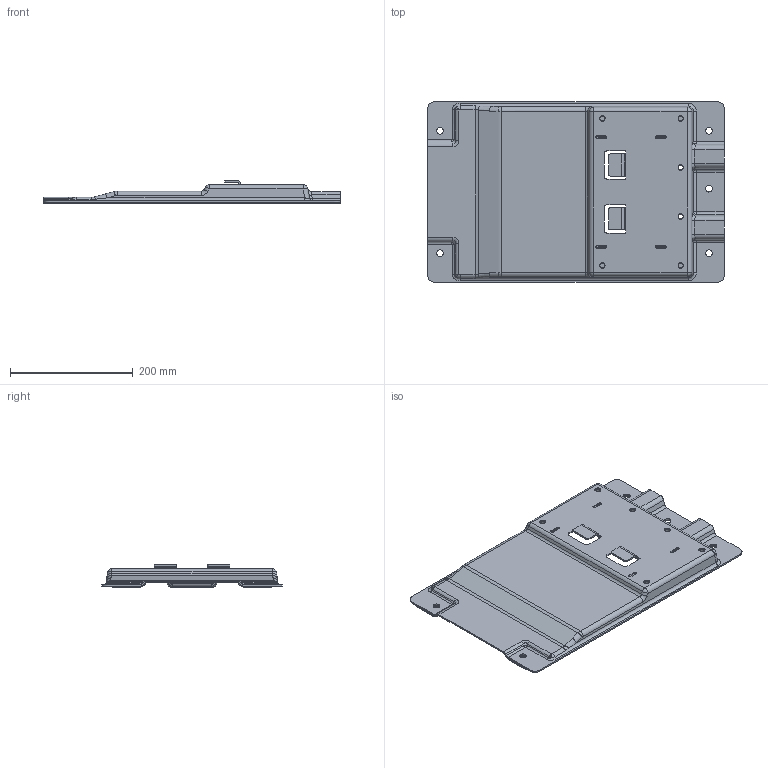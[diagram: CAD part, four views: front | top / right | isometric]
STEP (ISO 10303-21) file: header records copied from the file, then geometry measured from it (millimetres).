
FILE_DESCRIPTION(('CATIA V5 STEP Exchange'),'2;1');
FILE_NAME('F:\福田A6\17-新能源车\数据\变更后数据\副驾底支架\SHT0017898-20250326.stp','2025-03-26T10:58:09+00:00',('none'),('none'),'CATIA Version 5 Release 20 GA (IN-10)','CATIA V5 STEP AP203','none');
FILE_SCHEMA(('CONFIG_CONTROL_DESIGN'));
Length unit declared in the file: millimetre
Products named in the file (1): SHT0017898
Bounding box: 484 x 294 x 37.5 mm (x, y, z)
Volume: 503496.9 mm3; surface area: 435809.1 mm2
Topology: 9 solids, 9 shells, 773 faces, 1985 edges, 1172 vertices
Faces by surface type: cylinder 349, plane 210, bspline 80, sphere 58, cone 36, extrusion 32, torus 8
Entity records: 28755 total; most frequent: CARTESIAN_POINT 12155, ORIENTED_EDGE 3830, DIRECTION 2554, EDGE_CURVE 1915, VERTEX_POINT 1172, AXIS2_PLACEMENT_3D 1129, EDGE_LOOP 839, VECTOR 836
